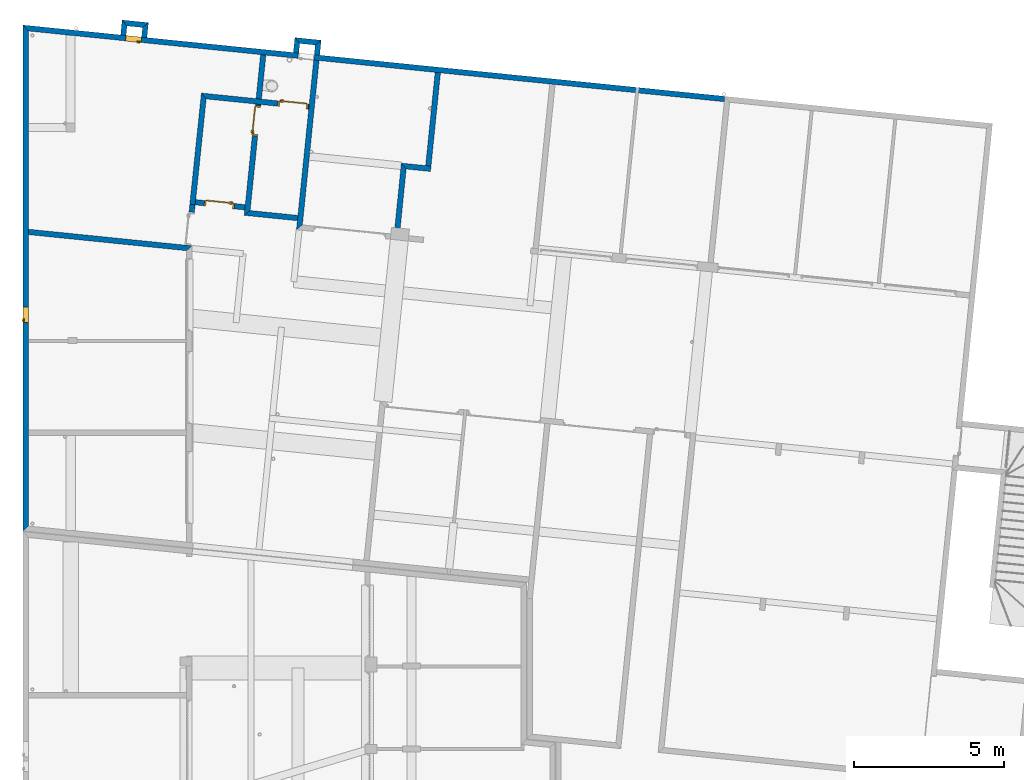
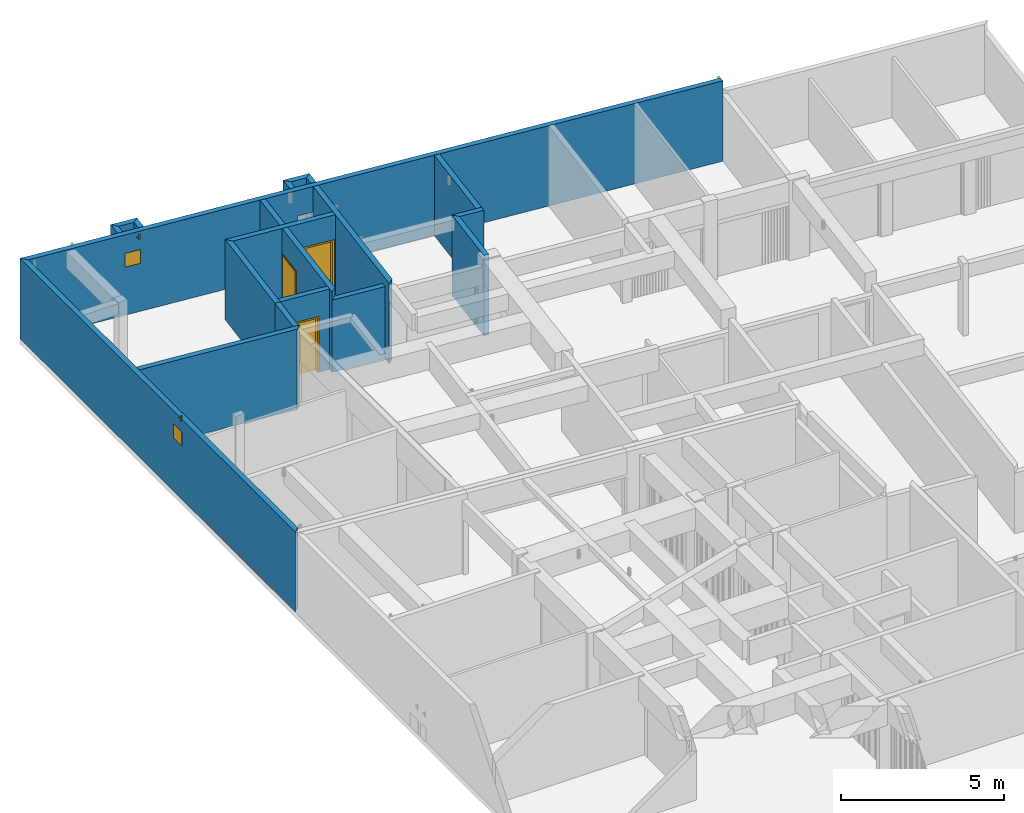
# One storey, part 17 of 41: 19 walls, 5 doors, 7 openings.
"""IFC2X3 building model written with IfcOpenShell, lengths in millimetres."""

from ifc_helpers import new_model, entity, si_unit, converted_unit, derived_unit, money_unit, direction, frame, origin_with_axes, origin_2d_with_axis, place, context, subcontext, project, spatial, polyline, rectangle, outline, extrude, faceted_brep, source, transform, mapped, material, layer, layer_set, layer_usage, type_object, element, fill, save


model = new_model("IFC2X3")

# Units and contexts
model_context = context("Model", 3, precision=0.01, world=origin_with_axes(), true_north=direction((0.0, 1.0)))
body_context = subcontext(model_context, "Body", "Model", "MODEL_VIEW")
ifc_project = project(units=[si_unit("LENGTHUNIT", "METRE", prefix="MILLI"), si_unit("AREAUNIT", "SQUARE_METRE"), si_unit("VOLUMEUNIT", "CUBIC_METRE"), converted_unit("PLANEANGLEUNIT", "DEGREE", entity("IfcPlaneAngleMeasure", 0.0174532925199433), si_unit("PLANEANGLEUNIT", "RADIAN"), dimensions=[0, 0, 0, 0, 0, 0, 0]), money_unit("USD"), converted_unit("TIMEUNIT", "Year", entity("IfcTimeMeasure", 31557600.0), si_unit("TIMEUNIT", "SECOND"), dimensions=[0, 0, 1, 0, 0, 0, 0]), si_unit("MASSUNIT", "GRAM", prefix="KILO"), si_unit("THERMODYNAMICTEMPERATUREUNIT", "DEGREE_CELSIUS"), si_unit("LUMINOUSINTENSITYUNIT", "LUMEN"), si_unit("ENERGYUNIT", "JOULE", prefix="MEGA"), derived_unit("THERMALCONDUCTANCEUNIT", [(si_unit("POWERUNIT", "WATT"), 1), (si_unit("LENGTHUNIT", "METRE"), -1), (si_unit("THERMODYNAMICTEMPERATUREUNIT", "KELVIN"), -1)]), derived_unit("SPECIFICHEATCAPACITYUNIT", [(si_unit("ENERGYUNIT", "JOULE"), 1), (si_unit("MASSUNIT", "GRAM", prefix="KILO"), -1), (si_unit("THERMODYNAMICTEMPERATUREUNIT", "KELVIN"), -1)]), derived_unit("MASSDENSITYUNIT", [(si_unit("MASSUNIT", "GRAM", prefix="KILO"), 1), (si_unit("VOLUMEUNIT", "CUBIC_METRE"), -1)])], contexts=[model_context])

# Site, building, storey
site_placement = place(None, origin_with_axes())
site = spatial("IfcSite", under=ifc_project, at=site_placement, Name="Site", CompositionType="ELEMENT")
building_placement = place(site_placement, origin_with_axes())
building = spatial("IfcBuilding", under=site, at=building_placement, Name="Bâtiment", CompositionType="ELEMENT")
storey_placement = place(building_placement, origin_with_axes())
storey = spatial("IfcBuildingStorey", under=building, at=storey_placement, Name="sousol", CompositionType="ELEMENT", Elevation=0.0)

# Walls
ifc_material = material(Name="Parpaing 314940890")
ifc_layer = layer(ifc_material, 180.0, ventilated="UNKNOWN")
ifc_layer_set = layer_set([ifc_layer], Name="Beton  18 0170347028")
ifc_layer_usage_1 = layer_usage(ifc_layer_set, "AXIS2", "NEGATIVE", 0.0)
wall_type = type_object("IfcWallType", Name="Beton  18 0170347028 180", PredefinedType="NOTDEFINED")
wall_1_placement = place(storey_placement, frame((2225741.098510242, -610658.6956683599, 0.0), z_axis=(0.0, 0.0, 1.0), x_axis=(0.1011032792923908, 0.9948759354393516, 0.0)))
element("IfcWallStandardCase", 1, at=wall_1_placement, inside=storey, type_object=wall_type, material=ifc_layer_usage_1, Name="Mur-133", context=body_context, shape_type="SweptSolid", body=[
    extrude(outline(polyline([(180.0000103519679, -180.0000000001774), (5680.0000103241, -180.0000000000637), (5679.999999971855, 0.0), (0.0, 0.0), (180.0000103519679, -180.0000000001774)])), origin_with_axes(), (0.0, 0.0, 1.0), 3000.0),
])
ifc_layer_usage_2 = layer_usage(ifc_layer_set, "AXIS2", "NEGATIVE", 0.0)
wall_2_placement = place(storey_placement, frame((2225771.429476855, -610360.2328859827, 0.0), z_axis=(0.0, 0.0, 1.0), x_axis=(-0.9948759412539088, 0.1011032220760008, 0.0)))
element("IfcWallStandardCase", 2, at=wall_2_placement, inside=storey, type_object=wall_type, material=ifc_layer_usage_2, Name="Mur-132", context=body_context, shape_type="SweptSolid", body=[
    extrude(outline(polyline([(-2.761464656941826e-05, -179.9999999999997), (1600.000000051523, -179.9999999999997), (1780.000000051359, 0.0), (-1.726289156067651e-05, 0.0), (-2.761464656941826e-05, -179.9999999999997)])), origin_with_axes(), (0.0, 0.0, 1.0), 2700.0),
])

# Wall, opening, door
ifc_layer_usage_3 = layer_usage(ifc_layer_set, "AXIS2", "POSITIVE", 0.0)
wall_3_placement = place(storey_placement, frame((2216634.233344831, -603843.0384290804, 0.0), z_axis=(0.0, 0.0, 1.0), x_axis=(0.0, -1.0, 0.0)))
wall_3 = element("IfcWallStandardCase", 3, at=wall_3_placement, inside=storey, type_object=wall_type, material=ifc_layer_usage_3, Name="Mur-132", context=body_context, shape_type="SweptSolid", body=[
    extrude(outline(polyline([(-1.56319401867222e-09, 0.0), (16846.32154122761, 0.0), (16683.68677108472, 179.99999999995), (199.2193918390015, 179.99999999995), (-1.56319401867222e-09, 0.0)])), origin_with_axes(), (0.0, 0.0, 1.0), 3000.0),
])
opening_1_placement = place(wall_3_placement, frame((9652.09294850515, -2.273736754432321e-10, 2000.000000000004), z_axis=(0.0, 0.0, 1.0), x_axis=(1.0, 0.0, 0.0)))
opening_1 = element("IfcOpeningElement", 4, at=opening_1_placement, cuts=wall_3, Name="Por-277", context=body_context, shape_type="SweptSolid", body=[
    extrude(rectangle(XDim=519.999999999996, YDim=509.999998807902, at=origin_2d_with_axis()), frame((0.0, 179.99999999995, 255.0000005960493), z_axis=(0.0, -1.0, 0.0), x_axis=(-1.0, 0.0, 0.0)), (0.0, 0.0, 1.0), 360.0),
])
door_style = type_object("IfcDoorStyle", Name="Porte_1v", ConstructionType="NOTDEFINED", OperationType="NOTDEFINED", ParameterTakesPrecedence=False, Sizeable=False)
shared_shape_1 = source(origin_with_axes(), body_context, "Body", "Brep", [
    faceted_brep([(260.0, 0.0, 0.0), (250.0, 0.0, 0.0), (250.0, 0.0, 500.0), (-250.0, 0.0, 500.0), (-250.0, 0.0, 0.0), (-260.0, 0.0, 0.0), (-260.0, 0.0, 510.0), (260.0, 0.0, 510.0), (260.0, -180.0, 0.0), (240.0, -180.0, 0.0), (240.0, -15.0, 0.0), (250.0, -15.0, 0.0), (250.0, -15.0, 500.0), (-250.0, -15.0, 500.0), (-250.0, -15.0, 0.0), (-240.0, -15.0, 0.0), (-240.0, -180.0, 0.0), (-260.0, -180.0, 0.0), (-260.0, -180.0, 510.0), (260.0, -180.0, 510.0), (-240.0, -180.0, 490.0), (240.0, -180.0, 490.0), (240.0, -15.0, 490.0), (-240.0, -15.0, 490.0)], [[[0, 1, 2, 3, 4, 5, 6, 7]], [[0, 8, 9, 10, 11, 1]], [[1, 11, 12, 2]], [[2, 12, 13, 3]], [[3, 13, 14, 4]], [[5, 4, 14, 15, 16, 17]], [[18, 6, 5, 17]], [[19, 7, 6, 18]], [[8, 0, 7, 19]], [[9, 8, 19, 18, 17, 16, 20, 21]], [[10, 9, 21, 22]], [[11, 10, 22, 23, 15, 14, 13, 12]], [[23, 20, 16, 15]], [[22, 21, 20, 23]]]),
    faceted_brep([(-185.0, -15.0, 900.0), (-225.0, -15.0, 900.0), (-225.0, -15.0, 1100.0), (-185.0, -15.0, 1100.0), (-185.0, -25.0, 900.0), (-225.0, -25.0, 900.0), (-225.0, -25.0, 1100.0), (-185.0, -25.0, 1100.0)], [[[0, 1, 2, 3]], [[1, 0, 4, 5]], [[2, 1, 5, 6]], [[3, 2, 6, 7]], [[0, 3, 7, 4]], [[5, 4, 7, 6]]]),
    faceted_brep([(-115.0, -25.0, 1000.0), (-215.0, -25.0, 1000.0), (-215.0, -25.0, 1020.0), (-115.0, -25.0, 1020.0), (-115.0, -45.0, 1000.0), (-215.0, -45.0, 1000.0), (-215.0, -45.0, 1020.0), (-115.0, -45.0, 1020.0)], [[[0, 1, 2, 3]], [[1, 0, 4, 5]], [[2, 1, 5, 6]], [[3, 2, 6, 7]], [[0, 3, 7, 4]], [[5, 4, 7, 6]]]),
    faceted_brep([(-185.0, 15.0, 900.0), (-225.0, 15.0, 900.0), (-225.0, 15.0, 1100.0), (-185.0, 15.0, 1100.0), (-185.0, 5.000000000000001, 900.0), (-225.0, 5.000000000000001, 900.0), (-225.0, 5.000000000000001, 1100.0), (-185.0, 5.000000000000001, 1100.0)], [[[0, 1, 2, 3]], [[1, 0, 4, 5]], [[2, 1, 5, 6]], [[3, 2, 6, 7]], [[0, 3, 7, 4]], [[5, 4, 7, 6]]]),
    faceted_brep([(-115.0, 35.0, 1000.0), (-215.0, 35.0, 1000.0), (-215.0, 35.0, 1020.0), (-115.0, 35.0, 1020.0), (-115.0, 15.0, 1000.0), (-215.0, 15.0, 1000.0), (-215.0, 15.0, 1020.0), (-115.0, 15.0, 1020.0)], [[[0, 1, 2, 3]], [[1, 0, 4, 5]], [[2, 1, 5, 6]], [[3, 2, 6, 7]], [[0, 3, 7, 4]], [[5, 4, 7, 6]]]),
    faceted_brep([(-250.0, 5.000000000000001, 0.0), (250.0, 5.000000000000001, 0.0), (250.0, -15.0, 0.0), (-250.0, -15.0, 0.0), (-250.0, 5.000000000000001, 500.0), (250.0, 5.000000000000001, 500.0), (250.0, -15.0, 500.0), (-250.0, -15.0, 500.0)], [[[0, 1, 2, 3]], [[0, 4, 5, 1]], [[1, 5, 6, 2]], [[3, 2, 6, 7]], [[4, 0, 3, 7]], [[5, 4, 7, 6]]]),
])
door_1_placement = place(opening_1_placement, frame((250.0000000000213, 2.273736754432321e-10, 0.0), z_axis=(0.0, 0.0, 1.0), x_axis=(-1.0, 0.0, 0.0)))
door_1 = element("IfcDoor", 5, at=door_1_placement, inside=storey, type_object=door_style, Name="Por-277", OverallHeight=500.0, OverallWidth=500.0, context=body_context, shape_type="MappedRepresentation", body=[
    mapped(shared_shape_1, transform((250.0, -2.273736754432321e-10, 0.0))),
])
fill(opening_1, door_1)

# Walls
ifc_layer_usage_4 = layer_usage(ifc_layer_set, "AXIS2", "POSITIVE", 0.0)
wall_4_placement = place(storey_placement, frame((2222264.233344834, -611195.1773865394, 0.0), z_axis=(0.0, 0.0, 1.0), x_axis=(-0.9948759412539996, 0.1011032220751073, 0.0)))
element("IfcWallStandardCase", 6, at=wall_4_placement, inside=storey, type_object=wall_type, material=ifc_layer_usage_4, Name="Mur-133", context=body_context, shape_type="SweptSolid", body=[
    extrude(outline(polyline([(1.13686837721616e-10, 0.0), (5478.069952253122, 0.0), (5459.77764140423, 180.0000000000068), (162.6347701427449, 179.9999999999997), (1.13686837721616e-10, 0.0)])), origin_with_axes(), (0.0, 0.0, 1.0), 3000.0),
])
ifc_layer_usage_5 = layer_usage(ifc_layer_set, "AXIS2", "NEGATIVE", 0.0)
wall_5_placement = place(storey_placement, frame((2222753.701061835, -606125.8880162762, 0.0), z_axis=(0.0, 0.0, 1.0), x_axis=(-0.1036349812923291, -0.9946153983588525, 0.0)))
element("IfcWallStandardCase", 7, at=wall_5_placement, inside=storey, type_object=wall_type, material=ifc_layer_usage_5, Name="Mur-133", context=body_context, shape_type="SweptSolid", body=[
    extrude(outline(polyline([(0.4581245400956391, -179.99999999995), (3727.367248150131, -179.99999999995), (3727.144443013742, 0.0), (180.0005829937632, -1.13686837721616e-10), (0.4581245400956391, -179.99999999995)])), origin_with_axes(), (0.0, 0.0, 1.0), 3000.0),
])

# Wall, opening, door
ifc_layer_usage_6 = layer_usage(ifc_layer_set, "AXIS2", "NEGATIVE", 0.0)
wall_6_placement = place(storey_placement, frame((2224000.550301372, -610180.2691506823, 0.0), z_axis=(0.0, 0.0, 1.0), x_axis=(0.1011032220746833, 0.9948759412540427, 0.0)))
wall_6 = element("IfcWallStandardCase", 8, at=wall_6_placement, inside=storey, type_object=wall_type, material=ifc_layer_usage_6, Name="Mur-133", context=body_context, shape_type="SweptSolid", body=[
    extrude(outline(polyline([(179.999999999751, -180.0000000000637), (5379.999999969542, -180.0000000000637), (5379.999999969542, -1.13686837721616e-10), (0.0, 0.0), (179.999999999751, -180.0000000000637)])), origin_with_axes(), (0.0, 0.0, 1.0), 3000.0),
])
opening_2_placement = place(wall_6_placement, frame((3173.670903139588, -1.13686837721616e-10, 0.0), z_axis=(0.0, 0.0, 1.0), x_axis=(1.0, 0.0, 0.0)))
opening_2 = element("IfcOpeningElement", 9, at=opening_2_placement, cuts=wall_6, Name="Por-297", context=body_context, shape_type="SweptSolid", body=[
    extrude(rectangle(XDim=1010.00001192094, YDim=2080.0, at=origin_2d_with_axis()), frame((5.960465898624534e-06, -180.0000000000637, 1040.0), z_axis=(0.0, 1.0, 0.0), x_axis=(1.0, 0.0, 0.0)), (0.0, 0.0, 1.0), 360.0),
])
shared_shape_2 = source(origin_with_axes(), body_context, "Body", "Brep", [
    faceted_brep([(505.0, 0.0, 0.0), (465.0, 0.0, 0.0), (464.9999999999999, 0.0, 2040.0), (-464.9999999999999, 0.0, 2040.0), (-465.0, 0.0, 0.0), (-505.0, 0.0, 0.0), (-505.0, 0.0, 2080.0), (505.0, 0.0, 2080.0), (505.0, -180.0, 0.0), (450.0, -180.0, 0.0), (450.0, -15.0, 0.0), (465.0, -15.0, 0.0), (464.9999999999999, -15.0, 2040.0), (-464.9999999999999, -15.0, 2040.0), (-465.0, -15.0, 0.0), (-450.0, -15.0, 0.0), (-450.0, -180.0, 0.0), (-505.0, -180.0, 0.0), (-505.0, -180.0, 2080.0), (505.0, -180.0, 2080.0), (-450.0, -180.0, 2025.0), (450.0, -180.0, 2025.0), (450.0, -15.0, 2025.0), (-450.0, -15.0, 2025.0)], [[[0, 1, 2, 3, 4, 5, 6, 7]], [[0, 8, 9, 10, 11, 1]], [[1, 11, 12, 2]], [[2, 12, 13, 3]], [[3, 13, 14, 4]], [[5, 4, 14, 15, 16, 17]], [[18, 6, 5, 17]], [[19, 7, 6, 18]], [[8, 0, 7, 19]], [[9, 8, 19, 18, 17, 16, 20, 21]], [[10, 9, 21, 22]], [[11, 10, 22, 23, 15, 14, 13, 12]], [[23, 20, 16, 15]], [[22, 21, 20, 23]]]),
    faceted_brep([(-400.0, -15.0, 900.0), (-440.0, -15.0, 900.0), (-440.0, -15.0, 1100.0), (-400.0, -15.0, 1100.0), (-400.0, -25.0, 900.0), (-440.0, -25.0, 900.0), (-440.0, -25.0, 1100.0), (-400.0, -25.0, 1100.0)], [[[0, 1, 2, 3]], [[1, 0, 4, 5]], [[2, 1, 5, 6]], [[3, 2, 6, 7]], [[0, 3, 7, 4]], [[5, 4, 7, 6]]]),
    faceted_brep([(-329.9999999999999, -25.0, 1000.0), (-430.0, -25.0, 1000.0), (-430.0, -25.0, 1020.0), (-329.9999999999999, -25.0, 1020.0), (-329.9999999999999, -45.0, 1000.0), (-430.0, -45.0, 1000.0), (-430.0, -45.0, 1020.0), (-329.9999999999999, -45.0, 1020.0)], [[[0, 1, 2, 3]], [[1, 0, 4, 5]], [[2, 1, 5, 6]], [[3, 2, 6, 7]], [[0, 3, 7, 4]], [[5, 4, 7, 6]]]),
    faceted_brep([(-400.0, 35.0, 900.0), (-440.0, 35.0, 900.0), (-440.0, 35.0, 1100.0), (-400.0, 35.0, 1100.0), (-400.0, 25.0, 900.0), (-440.0, 25.0, 900.0), (-440.0, 25.0, 1100.0), (-400.0, 25.0, 1100.0)], [[[0, 1, 2, 3]], [[1, 0, 4, 5]], [[2, 1, 5, 6]], [[3, 2, 6, 7]], [[0, 3, 7, 4]], [[5, 4, 7, 6]]]),
    faceted_brep([(-329.9999999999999, 55.00000000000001, 1000.0), (-430.0, 55.00000000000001, 1000.0), (-430.0, 55.00000000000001, 1020.0), (-329.9999999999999, 55.00000000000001, 1020.0), (-329.9999999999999, 35.0, 1000.0), (-430.0, 35.0, 1000.0), (-430.0, 35.0, 1020.0), (-329.9999999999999, 35.0, 1020.0)], [[[0, 1, 2, 3]], [[1, 0, 4, 5]], [[2, 1, 5, 6]], [[3, 2, 6, 7]], [[0, 3, 7, 4]], [[5, 4, 7, 6]]]),
    faceted_brep([(-465.0, 25.0, 0.0), (465.0, 25.0, 0.0), (465.0, -15.0, 0.0), (-465.0, -15.0, 0.0), (-465.0, 25.0, 2040.0), (465.0, 25.0, 2040.0), (465.0, -15.0, 2040.0), (-465.0, -15.0, 2040.0)], [[[0, 1, 2, 3]], [[0, 4, 5, 1]], [[1, 5, 6, 2]], [[3, 2, 6, 7]], [[4, 0, 3, 7]], [[5, 4, 7, 6]]]),
])
door_2_placement = place(opening_2_placement, frame((-464.999999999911, -2.273736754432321e-10, 0.0), z_axis=(0.0, 0.0, 1.0), x_axis=(1.0, 0.0, 0.0)))
door_2 = element("IfcDoor", 10, at=door_2_placement, inside=storey, type_object=door_style, Name="Por-297", OverallHeight=2040.0, OverallWidth=930.0, context=body_context, shape_type="MappedRepresentation", body=[
    mapped(shared_shape_2, transform((464.9999999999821, 1.13686837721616e-10, 0.0))),
])
fill(opening_2, door_2)

ifc_layer_usage_7 = layer_usage(ifc_layer_set, "AXIS2", "NEGATIVE", 0.0)
wall_7_placement = place(storey_placement, frame((2222386.092863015, -609653.9320275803, 0.0), z_axis=(0.0, 0.0, 1.0), x_axis=(0.9948507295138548, -0.1013510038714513, 0.0)))
wall_7 = element("IfcWallStandardCase", 11, at=wall_7_placement, inside=storey, type_object=wall_type, material=ifc_layer_usage_7, Name="Mur-133", context=body_context, shape_type="SweptSolid", body=[
    extrude(outline(polyline([(-0.4132932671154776, -180.0000000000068), (1659.44412511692, -180.0000000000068), (1659.399294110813, 0.0), (-1.13686837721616e-10, 0.0), (-0.4132932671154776, -180.0000000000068)])), origin_with_axes(), (0.0, 0.0, 1.0), 3000.0),
])
opening_3_placement = place(wall_7_placement, frame((799.5712016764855, 0.0, 0.0), z_axis=(0.0, 0.0, 1.0), x_axis=(1.0, 0.0, 0.0)))
opening_3 = element("IfcOpeningElement", 12, at=opening_3_placement, cuts=wall_7, Name="Por-296", context=body_context, shape_type="SweptSolid", body=[
    extrude(rectangle(XDim=1010.00001192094, YDim=2080.0, at=origin_2d_with_axis()), frame((-5.960259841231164e-06, -179.9999999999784, 1040.0), z_axis=(0.0, -1.0, 0.0), x_axis=(-1.0, 0.0, 0.0)), (0.0, 0.0, -1.0), 360.0),
])
shared_shape_3 = source(origin_with_axes(), body_context, "Body", "Brep", [
    faceted_brep([(-505.0, 0.0, 0.0), (-505.0, 0.0, 2080.0), (505.0, 0.0, 2080.0), (505.0, 0.0, 0.0), (465.0, 0.0, 0.0), (464.9999999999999, 0.0, 2040.0), (-464.9999999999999, 0.0, 2040.0), (-465.0, 0.0, 0.0), (-505.0, -180.0, 0.0), (-505.0, -180.0, 2080.0), (505.0, -180.0, 2080.0), (505.0, -180.0, 0.0), (450.0, -180.0, 0.0), (450.0, -15.0, 0.0), (465.0, -15.0, 0.0), (464.9999999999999, -15.0, 2040.0), (-464.9999999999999, -15.0, 2040.0), (-465.0, -15.0, 0.0), (-450.0, -15.0, 0.0), (-450.0, -180.0, 0.0), (-450.0, -180.0, 2025.0), (450.0, -180.0, 2025.0), (450.0, -15.0, 2025.0), (-450.0, -15.0, 2025.0)], [[[0, 1, 2, 3, 4, 5, 6, 7]], [[8, 9, 1, 0]], [[9, 10, 2, 1]], [[10, 11, 3, 2]], [[3, 11, 12, 13, 14, 4]], [[5, 4, 14, 15]], [[6, 5, 15, 16]], [[7, 6, 16, 17]], [[0, 7, 17, 18, 19, 8]], [[19, 20, 21, 12, 11, 10, 9, 8]], [[22, 13, 12, 21]], [[17, 16, 15, 14, 13, 22, 23, 18]], [[18, 23, 20, 19]], [[23, 22, 21, 20]]]),
    faceted_brep([(400.0, -15.0, 900.0), (400.0, -15.0, 1100.0), (440.0, -15.0, 1100.0), (440.0, -15.0, 900.0), (400.0, -25.0, 900.0), (400.0, -25.0, 1100.0), (440.0, -25.0, 1100.0), (440.0, -25.0, 900.0)], [[[0, 1, 2, 3]], [[0, 4, 5, 1]], [[1, 5, 6, 2]], [[2, 6, 7, 3]], [[3, 7, 4, 0]], [[7, 6, 5, 4]]]),
    faceted_brep([(329.9999999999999, -25.0, 1000.0), (329.9999999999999, -25.0, 1020.0), (430.0, -25.0, 1020.0), (430.0, -25.0, 1000.0), (329.9999999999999, -45.0, 1000.0), (329.9999999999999, -45.0, 1020.0), (430.0, -45.0, 1020.0), (430.0, -45.0, 1000.0)], [[[0, 1, 2, 3]], [[0, 4, 5, 1]], [[1, 5, 6, 2]], [[2, 6, 7, 3]], [[3, 7, 4, 0]], [[7, 6, 5, 4]]]),
    faceted_brep([(400.0, 35.0, 900.0), (400.0, 35.0, 1100.0), (440.0, 35.0, 1100.0), (440.0, 35.0, 900.0), (400.0, 25.0, 900.0), (400.0, 25.0, 1100.0), (440.0, 25.0, 1100.0), (440.0, 25.0, 900.0)], [[[0, 1, 2, 3]], [[0, 4, 5, 1]], [[1, 5, 6, 2]], [[2, 6, 7, 3]], [[3, 7, 4, 0]], [[7, 6, 5, 4]]]),
    faceted_brep([(329.9999999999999, 55.00000000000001, 1000.0), (329.9999999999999, 55.00000000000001, 1020.0), (430.0, 55.00000000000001, 1020.0), (430.0, 55.00000000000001, 1000.0), (329.9999999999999, 35.0, 1000.0), (329.9999999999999, 35.0, 1020.0), (430.0, 35.0, 1020.0), (430.0, 35.0, 1000.0)], [[[0, 1, 2, 3]], [[0, 4, 5, 1]], [[1, 5, 6, 2]], [[2, 6, 7, 3]], [[3, 7, 4, 0]], [[7, 6, 5, 4]]]),
    faceted_brep([(465.0, 25.0, 0.0), (465.0, -15.0, 0.0), (-465.0, -15.0, 0.0), (-465.0, 25.0, 0.0), (465.0, 25.0, 2040.0), (465.0, -15.0, 2040.0), (-465.0, -15.0, 2040.0), (-465.0, 25.0, 2040.0)], [[[0, 1, 2, 3]], [[4, 5, 1, 0]], [[1, 5, 6, 2]], [[3, 2, 6, 7]], [[0, 3, 7, 4]], [[7, 6, 5, 4]]]),
])
door_3_placement = place(opening_3_placement, frame((-464.9999999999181, 0.0, 0.0), z_axis=(0.0, 0.0, 1.0), x_axis=(1.0, 0.0, 0.0)))
door_3 = element("IfcDoor", 13, at=door_3_placement, inside=storey, type_object=door_style, Name="Por-296", OverallHeight=2040.0, OverallWidth=930.0, context=body_context, shape_type="MappedRepresentation", body=[
    mapped(shared_shape_3, transform((464.9999999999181, 0.0, 0.0))),
])
fill(opening_3, door_3)

ifc_layer_usage_8 = layer_usage(ifc_layer_set, "AXIS2", "NEGATIVE", 0.0)
wall_8_placement = place(storey_placement, frame((2222753.701061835, -606125.8880162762, 0.0), z_axis=(0.0, 0.0, 1.0), x_axis=(0.9948759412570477, -0.1011032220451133, 0.0)))
wall_8 = element("IfcWallStandardCase", 14, at=wall_8_placement, inside=storey, type_object=wall_type, material=ifc_layer_usage_8, Name="Mur-133", context=body_context, shape_type="SweptSolid", body=[
    extrude(outline(polyline([(-0.4581245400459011, -179.9999999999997), (3430.371538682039, -179.9999999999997), (3430.371549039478, 0.0), (-180.0005829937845, 0.0), (-0.4581245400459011, -179.9999999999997)])), origin_with_axes(), (0.0, 0.0, 1.0), 3000.0),
])
opening_4_placement = place(wall_8_placement, frame((2894.371307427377, -1.49213974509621e-10, 0.0), z_axis=(0.0, 0.0, 1.0), x_axis=(1.0, 0.0, 0.0)))
opening_4 = element("IfcOpeningElement", 15, at=opening_4_placement, cuts=wall_8, Name="Por-297", context=body_context, shape_type="SweptSolid", body=[
    extrude(rectangle(XDim=1010.00001192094, YDim=2080.0, at=origin_2d_with_axis()), frame((5.960600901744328e-06, -179.9999999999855, 1040.0), z_axis=(0.0, 1.0, 0.0), x_axis=(1.0, 0.0, 0.0)), (0.0, 0.0, 1.0), 360.0),
])
door_4_placement = place(opening_4_placement, frame((-464.9999999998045, 0.0, 0.0), z_axis=(0.0, 0.0, 1.0), x_axis=(1.0, 0.0, 0.0)))
door_4 = element("IfcDoor", 16, at=door_4_placement, inside=storey, type_object=door_style, Name="Por-297", OverallHeight=2040.0, OverallWidth=930.0, context=body_context, shape_type="MappedRepresentation", body=[
    mapped(shared_shape_2, transform((465.0000000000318, 0.0, 0.0))),
])
fill(opening_4, door_4)

# Wall, opening
ifc_layer_usage_9 = layer_usage(ifc_layer_set, "AXIS2", "NEGATIVE", 0.0)
wall_9_placement = place(storey_placement, frame((2222367.43851721, -609832.9632712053, 0.0), z_axis=(0.0, 0.0, 1.0), x_axis=(-0.1011723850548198, -0.9948689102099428, 0.0)))
wall_9 = element("IfcWallStandardCase", 17, at=wall_9_placement, inside=storey, type_object=wall_type, material=ifc_layer_usage_9, Name="Mur-133", context=body_context, shape_type="SweptSolid", body=[
    extrude(outline(polyline([(-0.2228051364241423, -180.0000000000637), (1365.680942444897, -180.0000000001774), (1365.668428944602, 0.0), (0.0, 0.0), (-0.2228051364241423, -180.0000000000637)])), origin_with_axes(), (0.0, 0.0, 1.0), 3000.0),
])
opening_5_placement = place(wall_9_placement, frame((806.7165681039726, -3.410605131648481e-10, 0.0), z_axis=(0.0, 0.0, 1.0), x_axis=(1.0, 0.0, 0.0)))
element("IfcOpeningElement", 18, at=opening_5_placement, cuts=wall_9, Name="Por-295", context=body_context, shape_type="SweptSolid", body=[
    extrude(rectangle(XDim=1109.999992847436, YDim=2080.0, at=origin_2d_with_axis()), frame((-3.576268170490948e-06, 179.99999999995, 1040.0), z_axis=(0.0, 1.0, 0.0), x_axis=(1.0, 0.0, 0.0)), (0.0, 0.0, -1.0), 360.0),
])

# Wall
ifc_layer_usage_10 = layer_usage(ifc_layer_set, "AXIS2", "POSITIVE", 0.0)
wall_10_placement = place(storey_placement, frame((2220811.961781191, -603764.1053075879, 0.0), z_axis=(0.0, 0.0, 1.0), x_axis=(-0.9948759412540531, 0.1011032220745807, 0.0)))
element("IfcWallStandardCase", 19, at=wall_10_placement, inside=storey, type_object=wall_type, material=ifc_layer_usage_10, Name="Mur-132", context=body_context, shape_type="SweptSolid", body=[
    extrude(outline(polyline([(-1.13686837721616e-10, 0.0), (880.0000000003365, 0.0), (700.0000000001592, 179.9999999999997), (179.99999999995, 180.0000000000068), (-1.13686837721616e-10, 0.0)])), origin_with_axes(), (0.0, 0.0, 1.0), 3000.0),
])

# Wall, openings, door
ifc_layer_usage_11 = layer_usage(ifc_layer_set, "AXIS2", "POSITIVE", 0.0)
wall_11_placement = place(storey_placement, frame((2240182.946874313, -606236.1516955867, 0.0), z_axis=(0.0, 0.0, 1.0), x_axis=(-0.9948759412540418, 0.1011032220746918, 0.0)))
wall_11 = element("IfcWallStandardCase", 20, at=wall_11_placement, inside=storey, type_object=wall_type, material=ifc_layer_usage_11, Name="Mur-132", context=body_context, shape_type="SweptSolid", body=[
    extrude(outline(polyline([(179.9999999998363, 0.0), (23669.99999999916, 0.0), (23470.78060815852, 180.0000000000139), (179.99999999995, 179.9999999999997), (179.9999999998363, 0.0)])), origin_with_axes(), (0.0, 0.0, 1.0), 3000.0),
])
opening_6_placement = place(wall_11_placement, frame((19961.65888248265, 0.0, 1800.000000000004), z_axis=(0.0, 0.0, 1.0), x_axis=(1.0, 0.0, 0.0)))
opening_6 = element("IfcOpeningElement", 21, at=opening_6_placement, cuts=wall_11, Name="Por-276", context=body_context, shape_type="SweptSolid", body=[
    extrude(rectangle(XDim=519.9999999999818, YDim=509.9999988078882, at=origin_2d_with_axis()), frame((0.0, -180.0000000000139, 255.000000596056), z_axis=(0.0, 1.0, 0.0), x_axis=(1.0, 0.0, 0.0)), (0.0, 0.0, 1.0), 360.0),
])
opening_7_placement = place(wall_11_placement, frame((14182.65292563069, 0.0, 0.0), z_axis=(0.0, 0.0, 1.0), x_axis=(1.0, 0.0, 0.0)))
element("IfcOpeningElement", 22, at=opening_7_placement, cuts=wall_11, Name="Por-276", context=body_context, shape_type="SweptSolid", body=[
    extrude(rectangle(XDim=536.1215481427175, YDim=2050.0, at=origin_2d_with_axis()), frame((-5.055881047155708e-06, -179.9999999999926, 1025.0), z_axis=(0.0, -1.0, 0.0), x_axis=(-1.0, 0.0, 0.0)), (0.0, 0.0, -1.0), 360.0),
])
door_5_placement = place(opening_6_placement, frame((-249.9999999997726, 0.0, 0.0), z_axis=(0.0, 0.0, 1.0), x_axis=(1.0, 0.0, 0.0)))
door_5 = element("IfcDoor", 23, at=door_5_placement, inside=storey, type_object=door_style, Name="Por-276", OverallHeight=500.0, OverallWidth=500.0, context=body_context, shape_type="MappedRepresentation", body=[
    mapped(shared_shape_1, transform((250.0000000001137, 180.0000000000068, 0.0))),
])
fill(opening_6, door_5)

# Walls
ifc_layer_usage_12 = layer_usage(ifc_layer_set, "AXIS2", "POSITIVE", 0.0)
wall_12_placement = place(storey_placement, frame((2229154.313722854, -611005.5600776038, 0.0), z_axis=(0.0, 0.0, 1.0), x_axis=(0.1008361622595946, 0.9949030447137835, 0.0)))
element("IfcWallStandardCase", 24, at=wall_12_placement, inside=storey, type_object=wall_type, material=ifc_layer_usage_12, Name="Mur-133", context=body_context, shape_type="SweptSolid", body=[
    extrude(outline(polyline([(180.0000064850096, -1.13686837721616e-10), (2379.693204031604, 0.0), (2559.693204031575, 179.99999999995), (180.0483241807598, 179.99999999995), (180.0000064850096, -1.13686837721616e-10)])), origin_with_axes(), (0.0, 0.0, 1.0), 3000.0),
])
ifc_layer_usage_13 = layer_usage(ifc_layer_set, "AXIS2", "POSITIVE", 0.0)
wall_13_placement = place(storey_placement, frame((2219936.470952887, -603675.1344721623, 0.0), z_axis=(0.0, 0.0, 1.0), x_axis=(-0.1011032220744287, -0.9948759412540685, 0.0)))
element("IfcWallStandardCase", 25, at=wall_13_placement, inside=storey, type_object=wall_type, material=ifc_layer_usage_13, Name="Mur-132", context=body_context, shape_type="SweptSolid", body=[
    extrude(outline(polyline([(0.0, 0.0), (500.9104694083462, 1.13686837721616e-10), (500.9104694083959, 180.0000000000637), (180.0000000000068, 180.0000000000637), (0.0, 0.0)])), origin_with_axes(), (0.0, 0.0, 1.0), 3000.0),
])
ifc_layer_usage_14 = layer_usage(ifc_layer_set, "AXIS2", "NEGATIVE", 0.0)
wall_14_placement = place(storey_placement, frame((2220811.961781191, -603764.1053075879, 0.0), z_axis=(0.0, 0.0, 1.0), x_axis=(-0.1011032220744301, -0.9948759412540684, 0.0)))
element("IfcWallStandardCase", 26, at=wall_14_placement, inside=storey, type_object=wall_type, material=ifc_layer_usage_14, Name="Mur-132", context=body_context, shape_type="SweptSolid", body=[
    extrude(outline(polyline([(179.9999999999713, -180.0000000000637), (500.910469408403, -180.0000000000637), (500.9104694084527, 0.0), (0.0, 0.0), (179.9999999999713, -180.0000000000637)])), origin_with_axes(), (0.0, 0.0, 1.0), 3000.0),
])
ifc_layer_usage_15 = layer_usage(ifc_layer_set, "AXIS2", "POSITIVE", 0.0)
wall_15_placement = place(storey_placement, frame((2225687.794237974, -604259.6066572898, 0.0), z_axis=(0.0, 0.0, 1.0), x_axis=(-0.1011032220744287, -0.9948759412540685, 0.0)))
element("IfcWallStandardCase", 27, at=wall_15_placement, inside=storey, type_object=wall_type, material=ifc_layer_usage_15, Name="Mur-132", context=body_context, shape_type="SweptSolid", body=[
    extrude(outline(polyline([(0.0, 0.0), (500.9104694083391, 0.0), (500.9104694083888, 180.0000000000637), (179.9999999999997, 180.0000000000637), (0.0, 0.0)])), origin_with_axes(), (0.0, 0.0, 1.0), 3000.0),
])
ifc_layer_usage_16 = layer_usage(ifc_layer_set, "AXIS2", "POSITIVE", 0.0)
wall_16_placement = place(storey_placement, frame((2229394.272852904, -608637.9960634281, 0.0), z_axis=(0.0, 0.0, 1.0), x_axis=(0.9949030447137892, -0.1008361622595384, 0.0)))
element("IfcWallStandardCase", 28, at=wall_16_placement, inside=storey, type_object=wall_type, material=ifc_layer_usage_16, Name="Mur-133", context=body_context, shape_type="SweptSolid", body=[
    extrude(outline(polyline([(1.13686837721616e-10, 0.0), (813.5821519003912, 0.0), (813.5821519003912, 180.0000000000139), (-179.9999999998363, 180.0000000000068), (1.13686837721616e-10, 0.0)])), origin_with_axes(), (0.0, 0.0, 1.0), 3000.0),
])
ifc_layer_usage_17 = layer_usage(ifc_layer_set, "AXIS2", "POSITIVE", 0.0)
wall_17_placement = place(storey_placement, frame((2230202.778833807, -608719.9401181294, 0.0), z_axis=(0.0, 0.0, 1.0), x_axis=(0.1011032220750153, 0.9948759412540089, 0.0)))
element("IfcWallStandardCase", 29, at=wall_17_placement, inside=storey, type_object=wall_type, material=ifc_layer_usage_17, Name="Mur-133", context=body_context, shape_type="SweptSolid", body=[
    extrude(outline(polyline([(179.9997557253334, 0.0), (3300.088490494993, -1.13686837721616e-10), (3300.088490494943, 179.99999999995), (179.9514380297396, 180.0000000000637), (179.9997557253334, 0.0)])), origin_with_axes(), (0.0, 0.0, 1.0), 3000.0),
])
ifc_layer_usage_18 = layer_usage(ifc_layer_set, "AXIS2", "NEGATIVE", 0.0)
wall_18_placement = place(storey_placement, frame((2226563.285066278, -604348.5774927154, 0.0), z_axis=(0.0, 0.0, 1.0), x_axis=(-0.1011032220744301, -0.9948759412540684, 0.0)))
element("IfcWallStandardCase", 30, at=wall_18_placement, inside=storey, type_object=wall_type, material=ifc_layer_usage_18, Name="Mur-132", context=body_context, shape_type="SweptSolid", body=[
    extrude(outline(polyline([(179.9999999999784, -179.99999999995), (500.9104694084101, -179.99999999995), (500.9104694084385, 0.0), (0.0, 0.0), (179.9999999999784, -179.99999999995)])), origin_with_axes(), (0.0, 0.0, 1.0), 3000.0),
])
ifc_layer_usage_19 = layer_usage(ifc_layer_set, "AXIS2", "POSITIVE", 0.0)
wall_19_placement = place(storey_placement, frame((2226563.285066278, -604348.5774927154, 0.0), z_axis=(0.0, 0.0, 1.0), x_axis=(-0.9948759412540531, 0.1011032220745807, 0.0)))
element("IfcWallStandardCase", 31, at=wall_19_placement, inside=storey, type_object=wall_type, material=ifc_layer_usage_19, Name="Mur-132", context=body_context, shape_type="SweptSolid", body=[
    extrude(outline(polyline([(1.13686837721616e-10, 0.0), (879.9999999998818, 0.0), (700.0000000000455, 179.9999999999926), (180.0000000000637, 180.0000000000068), (1.13686837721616e-10, 0.0)])), origin_with_axes(), (0.0, 0.0, 1.0), 3000.0),
])

save(model, "model.ifc")
